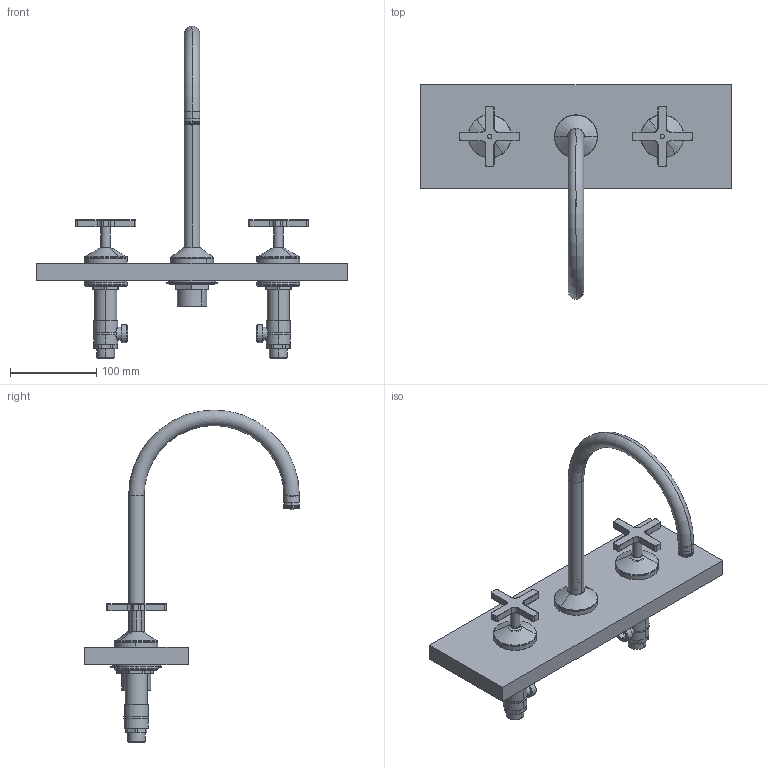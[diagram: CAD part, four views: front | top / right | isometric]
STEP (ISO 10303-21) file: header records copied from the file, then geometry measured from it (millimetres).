
FILE_DESCRIPTION (( 'STEP AP203' ), '1' );
FILE_NAME ('HUG13.STEP', '2019-06-10T09:01:08', ( '' ), ( '' ), 'SwSTEP 2.0', 'SolidWorks 2014', '' );
FILE_SCHEMA (( 'CONFIG_CONTROL_DESIGN' ));
Length unit declared in the file: millimetre
Products named in the file (32): HUG13; AS766_00; OR212ACS; FISSTOP001; RONDIX5027; FISS_PIANT; EU1472_0; eu01_dado_esa_x_codolo; VITOCER002; OR992262ACS; PIANTL2619; eu01_rondella_gomma_spugna; EU0648_1; EU1478_1; EU2050_0; RONDG50272; OR4569262NBR; EU1698_0; GRANCO M4x3 ACCIAIO; CTP2; EU1941_0; EU0029_1; EU0649_0; DADO2619H5; RONDG50342; EU2045_0; eu01_flangia_sagomata; AERA165X1CS; EU1477_1; GRANO M4x4 ACCIAIO; EU1940_0; TOP PER LAVABO 3 FORI
Assembly tree (35 placements, depth 3):
  HUG13
    TOP PER LAVABO 3 FORI
    CTP2
      EU0029_1
      OR212ACS
      EU1698_0
      EU1472_0
      EU0648_1
      EU0649_0  x2
      OR992262ACS  x2
      GRANCO M4x3 ACCIAIO
      AERA165X1CS
      EU2045_0
    FISS_PIANT  x2
      DADO2619H5
      RONDIX5027
      RONDG50342
      RONDG50272
    FISSTOP001
      eu01_flangia_sagomata
      eu01_rondella_gomma_spugna
      eu01_dado_esa_x_codolo
      OR4569262NBR
    AS766_00  x2
      PIANTL2619
      VITOCER002
      EU1477_1
      EU1478_1
      EU2050_0
      EU1940_0
      EU1941_0
      GRANO M4x4 ACCIAIO
Bounding box: 360 x 249 x 384.67 mm (x, y, z)
Volume: 1101493.1 mm3; surface area: 295400.7 mm2
Topology: 41 solids, 41 shells, 1679 faces, 4063 edges, 2554 vertices
Faces by surface type: plane 719, cylinder 548, cone 248, torus 118, bspline 34, sphere 12
Entity records: 36119 total; most frequent: CARTESIAN_POINT 7990, DIRECTION 5509, ORIENTED_EDGE 4918, EDGE_CURVE 2459, AXIS2_PLACEMENT_3D 2110, VERTEX_POINT 1549, VECTOR 1289, LINE 1289
